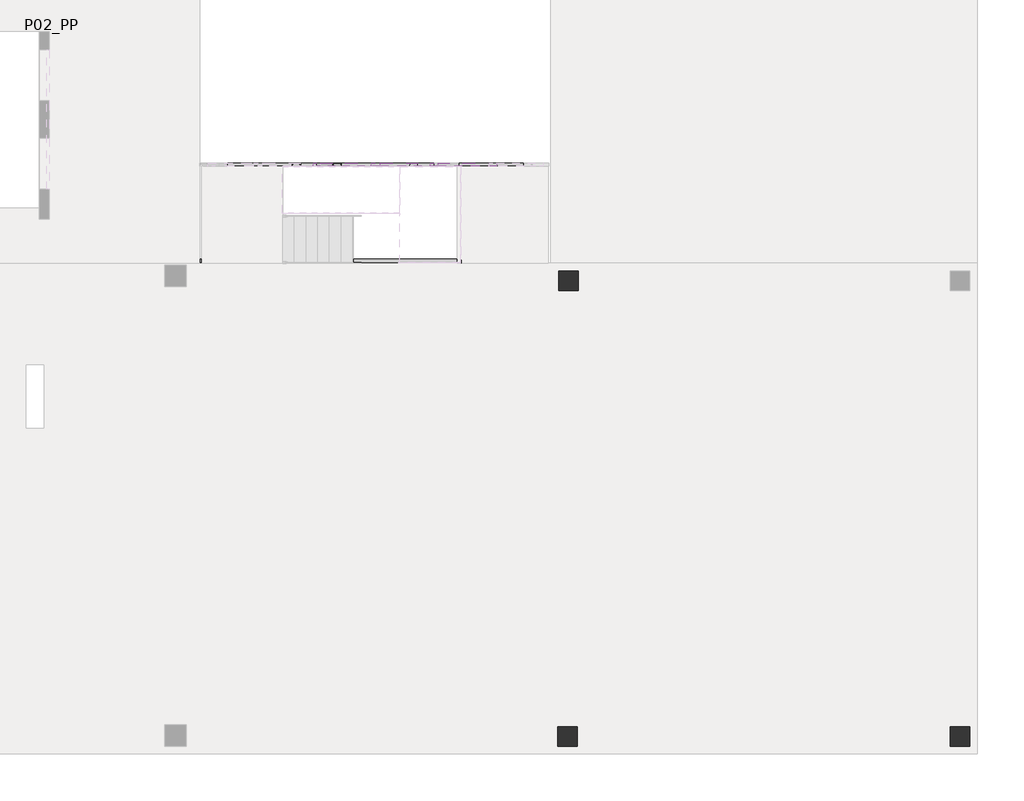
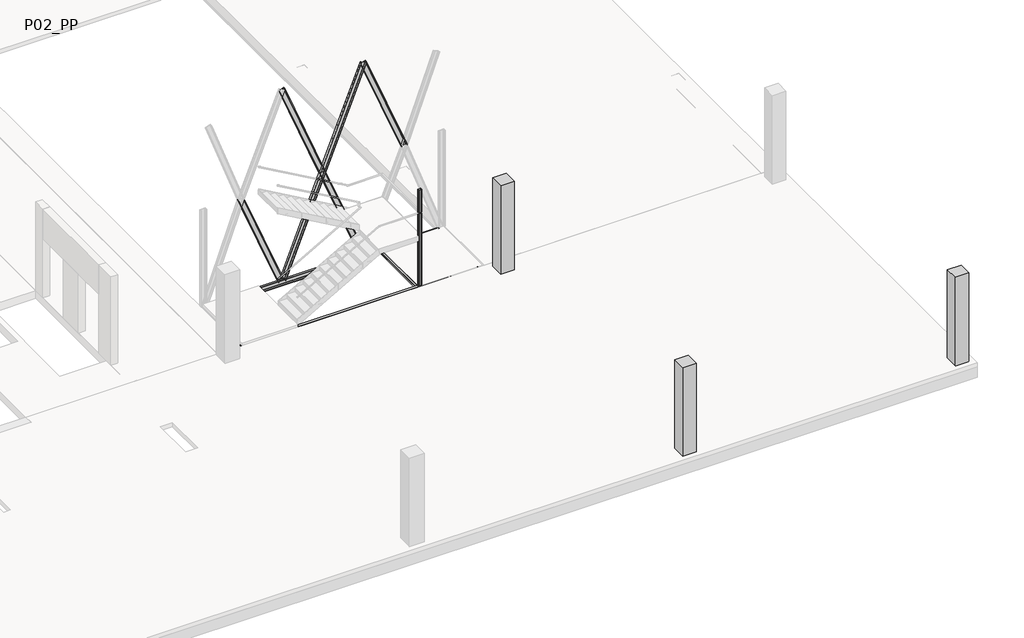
# One storey, part 3 of 7: 18 beams, 4 columns.
"""IFC4 building model written with IfcOpenShell, lengths in millimetres."""

from ifc_helpers import new_model, si_unit, frame, origin, place, context, project, spatial, polyline, circle_curve, ellipse_curve, outline, extrude, faceted_brep, transform, mapped, element, save
from ifc_brep_helpers import plane_surface, cylinder_surface, revolved_surface, advanced_brep
from components import ub_universal_beams_ipe_200x100_6cde27da, ub_universal_beams_ipe_200x100_60d02f98, upn200x75_de95b273, rhs_rectangular_hollow_section_column_100x80x5_0rhs_cb7fef1a

model = new_model("IFC4")

# Units and contexts
model_context = context("Model", 3, world=origin())
ifc_project = project(units=[si_unit("LENGTHUNIT", "METRE", prefix="MILLI")], contexts=[model_context])

# Site, building, storey
site = spatial("IfcSite", under=ifc_project)
building = spatial("IfcBuilding", under=site)
storey = spatial("IfcBuildingStorey", under=building, Name="P02_PP", Elevation=14910.0)

# Beams
placement = place(None, origin())
element("IfcBeam", 1, ObjectType="M_Concrete-Rectangular Beam : 400 x 550mm", at=placement, inside=storey, context=model_context, shape_type="SweptSolid", body=[
    extrude(outline(polyline([(850.3958139, -15610.5871866), (450.3958139, -15610.5871866), (450.3958139, -6060.5861501), (850.3958139, -6060.5861501), (850.3958139, -15610.5871866)])), frame((0.0, 0.0, 14360.0), z_axis=(0.0, 0.0, 1.0), x_axis=(1.0, 0.0, 0.0)), (0.0, 0.0, 1.0), 400.0),
])
element("IfcBeam", 2, ObjectType="M_Concrete-Rectangular Beam : 400 x 550mm", at=placement, inside=storey, context=model_context, shape_type="SweptSolid", body=[
    extrude(outline(polyline([(2517.0624776, -15610.5871866), (2117.0624776, -15610.5871866), (2117.0624776, -6060.5861501), (2517.0624776, -6060.5861501), (2517.0624776, -15610.5871866)])), frame((0.0, 0.0, 14360.0), z_axis=(0.0, 0.0, 1.0), x_axis=(1.0, 0.0, 0.0)), (0.0, 0.0, 1.0), 400.0),
])
element("IfcBeam", 3, ObjectType="M_Concrete-Rectangular Beam : 400 x 550mm", at=placement, inside=storey, context=model_context, shape_type="SweptSolid", body=[
    extrude(outline(polyline([(4183.7291418, -15610.5871866), (3783.7291418, -15610.5871866), (3783.7291418, -6060.5861501), (4183.7291418, -6060.5861501), (4183.7291418, -15610.5871866)])), frame((0.0, 0.0, 14360.0), z_axis=(0.0, 0.0, 1.0), x_axis=(1.0, 0.0, 0.0)), (0.0, 0.0, 1.0), 400.0),
])
element("IfcBeam", 4, ObjectType="M_Concrete-Rectangular Beam : 400 x 550mm", at=placement, inside=storey, context=model_context, shape_type="SweptSolid", body=[
    extrude(outline(polyline([(5850.3958055, -15610.5871866), (5450.3958055, -15610.5871866), (5450.3958055, -6060.5861501), (5850.3958055, -6060.5861501), (5850.3958055, -15610.5871866)])), frame((0.0, 0.0, 14360.0), z_axis=(0.0, 0.0, 1.0), x_axis=(1.0, 0.0, 0.0)), (0.0, 0.0, 1.0), 400.0),
])
element("IfcBeam", 5, ObjectType="M_Concrete-Rectangular Beam : 400 x 550mm", at=placement, inside=storey, context=model_context, shape_type="SweptSolid", body=[
    extrude(outline(polyline([(7517.0624701, -15610.5871866), (7117.0624701, -15610.5871866), (7117.0624701, -6060.5861501), (7517.0624701, -6060.5861501), (7517.0624701, -15610.5871866)])), frame((0.0, 0.0, 14360.0), z_axis=(0.0, 0.0, 1.0), x_axis=(1.0, 0.0, 0.0)), (0.0, 0.0, 1.0), 400.0),
])
element("IfcBeam", 6, ObjectType="M_Concrete-Rectangular Beam : 400 x 550mm", at=placement, inside=storey, context=model_context, shape_type="SweptSolid", body=[
    extrude(outline(polyline([(9183.7291339, -15610.5871866), (8783.7291339, -15610.5871866), (8783.7291339, -6060.5861501), (9183.7291339, -6060.5861501), (9183.7291339, -15610.5871866)])), frame((0.0, 0.0, 14360.0), z_axis=(0.0, 0.0, 1.0), x_axis=(1.0, 0.0, 0.0)), (0.0, 0.0, 1.0), 400.0),
])
element("IfcBeam", 7, ObjectType="M_Concrete-Rectangular Beam : 400 x 550mm", at=placement, inside=storey, context=model_context, shape_type="SweptSolid", body=[
    extrude(outline(polyline([(10850.3957976, -15610.5871866), (10450.3957976, -15610.5871866), (10450.3957976, -6060.5861501), (10850.3957976, -6060.5861501), (10850.3957976, -15610.5871866)])), frame((0.0, 0.0, 14360.0), z_axis=(0.0, 0.0, 1.0), x_axis=(1.0, 0.0, 0.0)), (0.0, 0.0, 1.0), 400.0),
])
element("IfcBeam", 8, ObjectType="M_Concrete-Rectangular Beam : 400 x 550mm", at=placement, inside=storey, context=model_context, shape_type="SweptSolid", body=[
    extrude(outline(polyline([(12517.0624618, -15610.5871866), (12117.0624618, -15610.5871866), (12117.0624618, -6060.5861501), (12517.0624618, -6060.5861501), (12517.0624618, -15610.5871866)])), frame((0.0, 0.0, 14360.0), z_axis=(0.0, 0.0, 1.0), x_axis=(1.0, 0.0, 0.0)), (0.0, 0.0, 1.0), 400.0),
])
element("IfcBeam", 9, ObjectType="M_Concrete-Rectangular Beam : 400 x 550mm", at=placement, inside=storey, context=model_context, shape_type="SweptSolid", body=[
    extrude(outline(polyline([(14183.7291255, -15610.5871866), (13783.7291255, -15610.5871866), (13783.7291255, -6060.5861501), (14183.7291255, -6060.5861501), (14183.7291255, -15610.5871866)])), frame((0.0, 0.0, 14360.0), z_axis=(0.0, 0.0, 1.0), x_axis=(1.0, 0.0, 0.0)), (0.0, 0.0, 1.0), 400.0),
])
ub_universal_beams_ipe_200x100_shape = ub_universal_beams_ipe_200x100_6cde27da(model_context)
element("IfcBeam", 10, ObjectType="UB-Universal Beams : IPE 200x100", at=placement, inside=storey, context=model_context, shape_type="MappedRepresentation", body=[
    mapped(ub_universal_beams_ipe_200x100_shape, transform((3714.2873994, -3698.1725705, 14810.0), x_axis=(0.0, 1.0, 0.0), y_axis=(-1.0, 0.0, 0.0), z_axis=(0.0, 0.0, 1.0))),
])
ub_universal_beams_ipe_200x100_2_shape = ub_universal_beams_ipe_200x100_60d02f98(model_context)
element("IfcBeam", 11, ObjectType="UB-Universal Beams : IPE 200x100", at=placement, inside=storey, context=model_context, shape_type="MappedRepresentation", body=[
    mapped(ub_universal_beams_ipe_200x100_2_shape, transform((1299.9319648, -4509.6213025, 14810.0), x_axis=(-1.0, 0.0, 0.0), y_axis=(0.0, -1.0, 0.0), z_axis=(0.0, 0.0, 1.0))),
])
element("IfcBeam", 12, ObjectType="M_MC Shapes : UPN200x75", at=placement, inside=storey, context=model_context, shape_type="AdvancedBrep", body=[
    advanced_brep(
    [(2978.7029827, -1999.8318893, 22272.8267741), (2978.7029851, -2074.8318893, 22272.8267741), (2979.6079483, -2074.8318892, 22273.1887594), (2983.2255309, -2071.5312664, 22274.6357925), (2992.5951359, -2010.9831343, 22278.3836352), (2999.8303011, -2004.3818886, 22281.2777014), (3143.2710028, -2004.3818841, 22338.6539821), (3150.5061684, -2010.9831294, 22341.5480482), (3159.8757772, -2071.5312609, 22345.295891), (3163.49336, -2074.8318835, 22346.7429241), (3164.3983232, -2074.8318835, 22347.1049094), (3164.3983209, -1999.8318835, 22347.1049094), (4679.2402749, -1999.8318363, 18560.0000243), (4463.8336827, -1999.831843, 18560.0000243), (4679.2402773, -2074.8318363, 18560.0000243), (4678.1905199, -2074.8318363, 18560.0000243), (4673.9941238, -2071.5312137, 18560.0000243), (4663.1253779, -2010.9830822, 18560.0000243), (4654.7325859, -2004.381837, 18560.0000243), (4488.3413719, -2004.3818422, 18560.0000243), (4479.9485803, -2010.9830879, 18560.0000243), (4469.0798382, -2071.5312201, 18560.0000243), (4464.8834424, -2074.8318429, 18560.0000243), (4463.833685, -2074.831843, 18560.0000243)],
    [
        (0, 1),
        (1, 2),
        (2, 3, circle_curve(frame((2979.6079482, -2070.8818892, 22273.1887594), z_axis=(-0.3713906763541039, -1.1576566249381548e-08, 0.9284766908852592), x_axis=(3.117086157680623e-08, -0.9999999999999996, 0.0)), 3.95)),
        (3, 4),
        (4, 5, circle_curve(frame((2999.8303013, -2012.2818886, 22281.2777014), z_axis=(0.3713906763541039, 1.1576566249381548e-08, -0.9284766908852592), x_axis=(3.117086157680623e-08, -0.9999999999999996, 0.0)), 7.9)),
        (5, 6),
        (6, 7, circle_curve(frame((3143.2710031, -2012.2818841, 22338.6539821), z_axis=(0.3713906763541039, 1.1576566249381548e-08, -0.9284766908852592), x_axis=(3.117086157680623e-08, -0.9999999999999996, 0.0)), 7.9)),
        (7, 8),
        (8, 9, circle_curve(frame((3163.4933598, -2070.8818835, 22346.7429241), z_axis=(-0.3713906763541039, -1.1576566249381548e-08, 0.9284766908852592), x_axis=(3.117086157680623e-08, -0.9999999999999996, 0.0)), 3.95)),
        (9, 10),
        (10, 11),
        (11, 0),
        (12, 13),
        (13, 0),
        (11, 12),
        (14, 12),
        (10, 14),
        (15, 14),
        (9, 15),
        (16, 15, ellipse_curve(frame((4678.1905197, -2070.8818363, 18560.0000243), z_axis=(-1.338109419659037e-10, 2.582863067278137e-10, 1.0), x_axis=(0.9999999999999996, 3.181657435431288e-08, 1.338109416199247e-10)), 4.2542802, 3.95)),
        (8, 16),
        (7, 17),
        (17, 16),
        (18, 17, ellipse_curve(frame((4654.7325862, -2012.281837, 18560.0000243), z_axis=(1.338109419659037e-10, -2.582863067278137e-10, -1.0), x_axis=(-0.9999999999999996, -3.181657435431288e-08, -1.338109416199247e-10)), 8.5085604, 7.9)),
        (6, 18),
        (19, 18),
        (5, 19),
        (20, 19, ellipse_curve(frame((4488.3413722, -2012.2818422, 18560.0000243), z_axis=(1.338109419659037e-10, -2.582863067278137e-10, -1.0), x_axis=(-0.9999999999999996, -3.181657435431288e-08, -1.338109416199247e-10)), 8.5085604, 7.9)),
        (4, 20),
        (3, 21),
        (21, 20),
        (22, 21, ellipse_curve(frame((4464.8834423, -2070.8818429, 18560.0000243), z_axis=(-1.338109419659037e-10, 2.582863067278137e-10, 1.0), x_axis=(0.9999999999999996, 3.181657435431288e-08, 1.338109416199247e-10)), 4.2542802, 3.95)),
        (2, 22),
        (23, 22),
        (1, 23),
        (13, 23),
    ],
    [
        plane_surface(frame((3071.5506521, -2010.7318864, 22309.9658417), z_axis=(-0.371390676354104, -1.157656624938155e-08, 0.9284766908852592), x_axis=(-0.9284766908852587, -2.894141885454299e-08, -0.37139067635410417))),
        plane_surface(frame((4463.8200193, -1999.831843, 18560.0341826), z_axis=(-3.117086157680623e-08, 0.9999999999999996, 0.0), x_axis=(-0.3713906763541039, -1.1576566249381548e-08, 0.9284766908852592))),
        plane_surface(frame((4649.5153575, -1999.8318372, 18634.3123179), z_axis=(0.9284766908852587, 2.894141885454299e-08, 0.3713906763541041), x_axis=(-0.3713906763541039, -1.1576566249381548e-08, 0.9284766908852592))),
        plane_surface(frame((4649.5153598, -2074.8318372, 18634.3123179), z_axis=(3.117086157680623e-08, -0.9999999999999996, 0.0), x_axis=(-0.3713906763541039, -1.1576566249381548e-08, 0.9284766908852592))),
        cylinder_surface(frame((4648.6103964, -2070.8818372, 18633.9503325), z_axis=(0.3713906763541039, 1.1576566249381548e-08, -0.9284766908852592), x_axis=(3.117086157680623e-08, -0.9999999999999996, 0.0)), 3.95),
        plane_surface(frame((4642.1803933, -2053.3568374, 18631.3783315), z_axis=(-0.9158437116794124, -0.1643993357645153, -0.36633748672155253), x_axis=(-0.3713906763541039, -1.1576566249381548e-08, 0.9284766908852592))),
        revolved_surface(polyline([(3143.2710033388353, -2020.1818840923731, 22338.653982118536), (4655.90618100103, -2020.181836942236, 18557.06603796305)]), (4628.3880397, -2012.2818378, 18625.8613906), (-0.3713906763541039, -1.1576566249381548e-08, 0.9284766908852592)),
        plane_surface(frame((4628.3880394, -2004.3818378, 18625.8613906), z_axis=(3.117086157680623e-08, -0.9999999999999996, 0.0), x_axis=(-0.3713906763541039, -1.1576566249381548e-08, 0.9284766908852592))),
        revolved_surface(polyline([(2999.8303015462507, -2020.1818885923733, 22281.2777014), (4489.514966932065, -2020.1818421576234, 18557.066037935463)]), (4484.9473379, -2012.2818423, 18568.4851099), (-0.3713906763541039, -1.1576566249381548e-08, 0.9284766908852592)),
        plane_surface(frame((4471.1549869, -2053.3568427, 18562.9681689), z_axis=(0.9158437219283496, -0.1643992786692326, 0.36633748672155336), x_axis=(-0.3713906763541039, -1.1576566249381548e-08, 0.9284766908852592))),
        cylinder_surface(frame((4464.7249848, -2070.8818429, 18560.3961679), z_axis=(0.3713906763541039, 1.1576566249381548e-08, -0.9284766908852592), x_axis=(3.117086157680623e-08, -0.9999999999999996, 0.0)), 3.95),
        plane_surface(frame((4464.7249849, -2074.8318429, 18560.3961679), z_axis=(3.117086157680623e-08, -0.9999999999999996, 0.0), x_axis=(-0.3713906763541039, -1.1576566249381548e-08, 0.9284766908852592))),
        plane_surface(frame((4463.8200217, -2074.831843, 18560.0341826), z_axis=(-0.9284766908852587, -2.894141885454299e-08, -0.3713906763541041), x_axis=(-0.3713906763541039, -1.1576566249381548e-08, 0.9284766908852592))),
        plane_surface(frame((4463.833683, -2010.731843, 18560.0000243), z_axis=(1.338109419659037e-10, -2.582863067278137e-10, -1.0), x_axis=(1.0, 0.0, 1.338109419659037e-10))),
    ],
    [
        (0, [[1, 2, 3, 4, 5, 6, 7, 8, 9, 10, 11, 12]]),
        (1, [[13, 14, -12, 15]]),
        (2, [[16, -15, -11, 17]]),
        (3, [[18, -17, -10, 19]]),
        (4, [[20, -19, -9, 21]]),
        (5, [[-21, -8, 22, 23]]),
        (6, [[24, -22, -7, 25]]),
        (7, [[26, -25, -6, 27]]),
        (8, [[28, -27, -5, 29]]),
        (9, [[-29, -4, 30, 31]]),
        (10, [[32, -30, -3, 33]]),
        (11, [[34, -33, -2, 35]]),
        (12, [[36, -35, -1, -14]]),
        (13, [[-13, -16, -18, -20, -23, -24, -26, -28, -31, -32, -34, -36]]),
    ],
),
])
element("IfcBeam", 13, ObjectType="M_MC Shapes : UPN200x75", at=placement, inside=storey, context=model_context, shape_type="AdvancedBrep", body=[
    advanced_brep(
    [(3164.3709292, -1999.831887, 22272.8267723), (2978.675591, -1999.8318812, 22347.1049075), (2978.6755886, -2074.8318812, 22347.1049075), (2979.5805519, -2074.8318812, 22346.7429222), (2983.1981347, -2071.5312586, 22345.2958892), (2992.5677435, -2010.9831271, 22341.5480464), (2999.8029091, -2004.3818818, 22338.6539803), (3143.2436108, -2004.3818863, 22281.2776996), (3150.478776, -2010.983132, 22278.3836335), (3159.848381, -2071.5312641, 22274.6357907), (3163.4659636, -2074.8318869, 22273.1887576), (3164.3709268, -2074.831887, 22272.8267723), (1463.8336374, -1999.831834, 18560.0000202), (1679.2402297, -1999.8318407, 18560.0000202), (1463.8336351, -2074.831834, 18560.0000202), (1464.8833925, -2074.831834, 18560.0000202), (1469.0797885, -2071.5312114, 18560.0000202), (1479.9485344, -2010.9830799, 18560.0000202), (1488.3413264, -2004.3818347, 18560.0000202), (1654.7325404, -2004.3818399, 18560.0000202), (1663.125332, -2010.9830856, 18560.0000202), (1673.9940742, -2071.5312178, 18560.0000202), (1678.19047, -2074.8318406, 18560.0000202), (1679.2402274, -2074.8318407, 18560.0000202)],
    [
        (0, 1),
        (1, 2),
        (2, 3),
        (3, 4, circle_curve(frame((2979.580552, -2070.8818812, 22346.7429222), z_axis=(0.37139067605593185, -1.1576567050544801e-08, 0.9284766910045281), x_axis=(-3.117085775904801e-08, -0.9999999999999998, 0.0)), 3.95)),
        (4, 5),
        (5, 6, circle_curve(frame((2999.8029088, -2012.2818818, 22338.6539803), z_axis=(-0.37139067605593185, 1.1576567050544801e-08, -0.9284766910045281), x_axis=(-3.117085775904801e-08, -0.9999999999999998, 0.0)), 7.9)),
        (6, 7),
        (7, 8, circle_curve(frame((3143.2436106, -2012.2818863, 22281.2776996), z_axis=(-0.37139067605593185, 1.1576567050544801e-08, -0.9284766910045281), x_axis=(-3.117085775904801e-08, -0.9999999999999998, 0.0)), 7.9)),
        (8, 9),
        (9, 10, circle_curve(frame((3163.4659637, -2070.8818869, 22273.1887576), z_axis=(0.37139067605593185, -1.1576567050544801e-08, 0.9284766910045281), x_axis=(-3.117085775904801e-08, -0.9999999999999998, 0.0)), 3.95)),
        (10, 11),
        (11, 0),
        (12, 1),
        (0, 13),
        (13, 12),
        (14, 2),
        (12, 14),
        (15, 3),
        (14, 15),
        (16, 4),
        (15, 16, ellipse_curve(frame((1464.8833926, -2070.881834, 18560.0000202), z_axis=(-1.6592393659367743e-10, 3.9155476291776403e-10, 1.0), x_axis=(-0.9999999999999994, 3.214974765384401e-08, -1.6592391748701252e-10)), 4.2542802, 3.95)),
        (16, 17),
        (17, 5),
        (18, 6),
        (17, 18, ellipse_curve(frame((1488.3413262, -2012.2818347, 18560.0000202), z_axis=(1.6592393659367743e-10, -3.9155476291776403e-10, -1.0), x_axis=(0.9999999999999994, -3.214974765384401e-08, 1.6592391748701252e-10)), 8.5085604, 7.9)),
        (19, 7),
        (18, 19),
        (20, 8),
        (19, 20, ellipse_curve(frame((1654.7325402, -2012.2818399, 18560.0000202), z_axis=(1.6592393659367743e-10, -3.9155476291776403e-10, -1.0), x_axis=(0.9999999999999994, -3.214974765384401e-08, 1.6592391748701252e-10)), 8.5085604, 7.9)),
        (20, 21),
        (21, 9),
        (22, 10),
        (21, 22, ellipse_curve(frame((1678.1904701, -2070.8818406, 18560.0000202), z_axis=(-1.6592393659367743e-10, 3.9155476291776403e-10, 1.0), x_axis=(-0.9999999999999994, 3.214974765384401e-08, -1.6592391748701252e-10)), 4.2542802, 3.95)),
        (23, 11),
        (22, 23),
        (23, 13),
    ],
    [
        plane_surface(frame((3071.5232597, -2010.7318841, 22309.9658399), z_axis=(0.371390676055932, -1.1576567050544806e-08, 0.928476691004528), x_axis=(0.9284766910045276, -2.8941414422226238e-08, -0.3713906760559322))),
        plane_surface(frame((1679.2538938, -1999.8318407, 18560.0341803), z_axis=(3.117085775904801e-08, 0.9999999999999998, 0.0), x_axis=(0.37139067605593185, -1.1576567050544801e-08, 0.9284766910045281))),
        plane_surface(frame((1493.5585556, -1999.8318349, 18634.3123155), z_axis=(-0.9284766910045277, 2.894141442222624e-08, 0.37139067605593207), x_axis=(0.37139067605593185, -1.1576567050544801e-08, 0.9284766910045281))),
        plane_surface(frame((1493.5585532, -2074.8318349, 18634.3123155), z_axis=(-3.117085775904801e-08, -0.9999999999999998, 0.0), x_axis=(0.37139067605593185, -1.1576567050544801e-08, 0.9284766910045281))),
        cylinder_surface(frame((1494.4635166, -2070.8818349, 18633.9503302), z_axis=(-0.37139067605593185, 1.1576567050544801e-08, -0.9284766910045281), x_axis=(-3.117085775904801e-08, -0.9999999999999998, 0.0)), 3.95),
        plane_surface(frame((1500.8935198, -2053.3568351, 18631.3783292), z_axis=(0.915843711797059, -0.1643993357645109, -0.36633748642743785), x_axis=(0.37139067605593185, -1.1576567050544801e-08, 0.9284766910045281))),
        revolved_surface(polyline([(2999.8029085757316, -2020.1818817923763, 22338.65398031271), (1487.1677314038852, -2020.1818346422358, 18557.06603386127)]), (1514.6858734, -2012.2818355, 18625.8613883), (0.37139067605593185, -1.1576567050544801e-08, 0.9284766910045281)),
        plane_surface(frame((1514.6858737, -2004.3818355, 18625.8613883), z_axis=(-3.117085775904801e-08, -0.9999999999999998, 0.0), x_axis=(0.37139067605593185, -1.1576567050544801e-08, 0.9284766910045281))),
        revolved_surface(polyline([(3143.243610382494, -2020.1818862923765, 22281.277699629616), (1653.5589454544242, -2020.1818398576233, 18557.066033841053)]), (1658.1265752, -2012.28184, 18568.4851076), (0.37139067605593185, -1.1576567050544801e-08, 0.9284766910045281)),
        plane_surface(frame((1671.9189262, -2053.3568404, 18562.9681667), z_axis=(-0.9158437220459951, -0.16439927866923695, 0.36633748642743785), x_axis=(0.37139067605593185, -1.1576567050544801e-08, 0.9284766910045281))),
        cylinder_surface(frame((1678.3489283, -2070.8818406, 18560.3961656), z_axis=(-0.37139067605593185, 1.1576567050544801e-08, -0.9284766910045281), x_axis=(-3.117085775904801e-08, -0.9999999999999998, 0.0)), 3.95),
        plane_surface(frame((1678.3489282, -2074.8318406, 18560.3961656), z_axis=(-3.117085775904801e-08, -0.9999999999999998, 0.0), x_axis=(0.37139067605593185, -1.1576567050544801e-08, 0.9284766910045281))),
        plane_surface(frame((1679.2538914, -2074.8318407, 18560.0341803), z_axis=(0.9284766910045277, -2.894141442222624e-08, -0.37139067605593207), x_axis=(0.37139067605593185, -1.1576567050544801e-08, 0.9284766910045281))),
        plane_surface(frame((1679.2402294, -2010.7318407, 18560.0000202), z_axis=(1.6592393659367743e-10, -3.9155476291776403e-10, -1.0), x_axis=(1.0, 0.0, 1.6592393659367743e-10))),
    ],
    [
        (0, [[1, 2, 3, 4, 5, 6, 7, 8, 9, 10, 11, 12]]),
        (1, [[13, -1, 14, 15]]),
        (2, [[16, -2, -13, 17]]),
        (3, [[18, -3, -16, 19]]),
        (4, [[20, -4, -18, 21]]),
        (5, [[22, 23, -5, -20]]),
        (6, [[24, -6, -23, 25]]),
        (7, [[26, -7, -24, 27]]),
        (8, [[28, -8, -26, 29]]),
        (9, [[30, 31, -9, -28]]),
        (10, [[32, -10, -31, 33]]),
        (11, [[34, -11, -32, 35]]),
        (12, [[-14, -12, -34, 36]]),
        (13, [[-36, -35, -33, -30, -29, -27, -25, -22, -21, -19, -17, -15]]),
    ],
),
])
element("IfcBeam", 14, ObjectType="M_MC Shapes : UPN200x75", at=placement, inside=storey, context=model_context, shape_type="AdvancedBrep", body=[
    advanced_brep(
    [(-21.2970181, -1999.8318888, 22272.8267746), (-21.2970158, -2074.8318888, 22272.8267746), (-20.3920525, -2074.8318888, 22273.1887599), (-16.7744699, -2071.5312659, 22274.635793), (-7.4048649, -2010.9831338, 22278.3836358), (-0.1696998, -2004.3818881, 22281.2777019), (143.2710019, -2004.3818837, 22338.6539827), (150.5061675, -2010.9831289, 22341.5480488), (159.8757763, -2071.5312604, 22345.2958916), (163.4933591, -2074.831883, 22346.7429247), (164.3983223, -2074.831883, 22347.10491), (164.39832, -1999.831883, 22347.10491), (1679.2402756, -1999.8318358, 18560.0000261), (1463.8336833, -1999.8318425, 18560.0000261), (1679.240278, -2074.8318358, 18560.0000261), (1678.1905206, -2074.8318358, 18560.0000261), (1673.9941245, -2071.5312132, 18560.0000261), (1663.1253786, -2010.9830818, 18560.0000261), (1654.7325866, -2004.3818366, 18560.0000261), (1488.3413726, -2004.3818418, 18560.0000261), (1479.948581, -2010.9830875, 18560.0000261), (1469.0798389, -2071.5312196, 18560.0000261), (1464.883443, -2074.8318425, 18560.0000261), (1463.8336856, -2074.8318425, 18560.0000261)],
    [
        (0, 1),
        (1, 2),
        (2, 3, circle_curve(frame((-20.3920526, -2070.8818888, 22273.1887599), z_axis=(-0.3713906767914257, -1.1573273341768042e-08, 0.9284766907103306), x_axis=(3.116199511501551e-08, -0.9999999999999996, 0.0)), 3.95)),
        (3, 4),
        (4, 5, circle_curve(frame((-0.1696995, -2012.2818881, 22281.2777019), z_axis=(0.3713906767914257, 1.1573273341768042e-08, -0.9284766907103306), x_axis=(3.116199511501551e-08, -0.9999999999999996, 0.0)), 7.9)),
        (5, 6),
        (6, 7, circle_curve(frame((143.2710022, -2012.2818837, 22338.6539827), z_axis=(0.3713906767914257, 1.1573273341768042e-08, -0.9284766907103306), x_axis=(3.116199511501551e-08, -0.9999999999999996, 0.0)), 7.9)),
        (7, 8),
        (8, 9, circle_curve(frame((163.4933589, -2070.881883, 22346.7429247), z_axis=(-0.3713906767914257, -1.1573273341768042e-08, 0.9284766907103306), x_axis=(3.116199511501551e-08, -0.9999999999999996, 0.0)), 3.95)),
        (9, 10),
        (10, 11),
        (11, 0),
        (12, 13),
        (13, 0),
        (11, 12),
        (14, 12),
        (10, 14),
        (15, 14),
        (9, 15),
        (16, 15, ellipse_curve(frame((1678.1905204, -2070.8818358, 18560.0000261), z_axis=(-2.569041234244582e-10, 0.0, 1.0), x_axis=(0.9999999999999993, 3.116199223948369e-08, 2.569041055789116e-10)), 4.2542802, 3.95)),
        (8, 16),
        (7, 17),
        (17, 16),
        (18, 17, ellipse_curve(frame((1654.7325868, -2012.2818366, 18560.0000261), z_axis=(2.569041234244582e-10, 0.0, -1.0), x_axis=(-0.9999999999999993, -3.116199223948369e-08, -2.569041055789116e-10)), 8.5085604, 7.9)),
        (6, 18),
        (19, 18),
        (5, 19),
        (20, 19, ellipse_curve(frame((1488.3413728, -2012.2818418, 18560.0000261), z_axis=(2.569041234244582e-10, 0.0, -1.0), x_axis=(-0.9999999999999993, -3.116199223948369e-08, -2.569041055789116e-10)), 8.5085604, 7.9)),
        (4, 20),
        (3, 21),
        (21, 20),
        (22, 21, ellipse_curve(frame((1464.8834429, -2070.8818425, 18560.0000261), z_axis=(-2.569041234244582e-10, 0.0, 1.0), x_axis=(0.9999999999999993, 3.116199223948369e-08, 2.569041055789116e-10)), 4.2542802, 3.95)),
        (2, 22),
        (23, 22),
        (1, 23),
        (13, 23),
    ],
    [
        plane_surface(frame((71.5506513, -2010.7318859, 22309.9658423), z_axis=(-0.3713906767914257, -1.1573273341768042e-08, 0.9284766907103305), x_axis=(-0.92847669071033, -2.893318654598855e-08, -0.37139067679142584))),
        plane_surface(frame((1463.8200202, -1999.8318425, 18560.0341838), z_axis=(-3.116199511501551e-08, 0.9999999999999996, 0.0), x_axis=(-0.3713906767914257, -1.1573273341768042e-08, 0.9284766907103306))),
        plane_surface(frame((1649.5153584, -1999.8318367, 18634.3123191), z_axis=(0.9284766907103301, 2.8933186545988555e-08, 0.37139067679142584), x_axis=(-0.3713906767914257, -1.1573273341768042e-08, 0.9284766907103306))),
        plane_surface(frame((1649.5153607, -2074.8318367, 18634.3123191), z_axis=(3.116199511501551e-08, -0.9999999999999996, 0.0), x_axis=(-0.3713906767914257, -1.1573273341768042e-08, 0.9284766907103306))),
        cylinder_surface(frame((1648.6103973, -2070.8818368, 18633.9503338), z_axis=(0.3713906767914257, 1.1573273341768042e-08, -0.9284766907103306), x_axis=(3.116199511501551e-08, -0.9999999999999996, 0.0)), 3.95),
        plane_surface(frame((1642.1803942, -2053.356837, 18631.3783328), z_axis=(-0.9158437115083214, -0.16439933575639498, -0.3663374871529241), x_axis=(-0.3713906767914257, -1.1573273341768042e-08, 0.9284766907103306))),
        revolved_surface(polyline([(143.27100236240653, -2020.1818836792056, 22338.65398268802), (1655.9061815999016, -2020.1818365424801, 18557.066039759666)]), (1628.3880405, -2012.2818374, 18625.8613918), (-0.3713906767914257, -1.1573273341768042e-08, 0.9284766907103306)),
        plane_surface(frame((1628.3880403, -2004.3818374, 18625.8613918), z_axis=(3.116199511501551e-08, -0.9999999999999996, 0.0), x_axis=(-0.3713906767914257, -1.1573273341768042e-08, 0.9284766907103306))),
        revolved_surface(polyline([(-0.1696993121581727, -2020.1818881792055, 22281.27770192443), (1489.5149675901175, -2020.1818417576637, 18557.06603975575)]), (1484.9473388, -2012.2818419, 18568.4851111), (-0.3713906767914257, -1.1573273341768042e-08, 0.9284766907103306)),
        plane_surface(frame((1471.1549877, -2053.3568423, 18562.9681701), z_axis=(0.9158437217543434, -0.16439927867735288, 0.36633748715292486), x_axis=(-0.3713906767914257, -1.1573273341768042e-08, 0.9284766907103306))),
        cylinder_surface(frame((1464.7249857, -2070.8818425, 18560.3961691), z_axis=(0.3713906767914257, 1.1573273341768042e-08, -0.9284766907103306), x_axis=(3.116199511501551e-08, -0.9999999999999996, 0.0)), 3.95),
        plane_surface(frame((1464.7249858, -2074.8318425, 18560.3961691), z_axis=(3.116199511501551e-08, -0.9999999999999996, 0.0), x_axis=(-0.3713906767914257, -1.1573273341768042e-08, 0.9284766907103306))),
        plane_surface(frame((1463.8200226, -2074.8318425, 18560.0341838), z_axis=(-0.9284766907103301, -2.8933186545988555e-08, -0.37139067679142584), x_axis=(-0.3713906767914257, -1.1573273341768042e-08, 0.9284766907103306))),
        plane_surface(frame((1463.8336836, -2010.7318425, 18560.0000261), z_axis=(2.569041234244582e-10, 0.0, -1.0), x_axis=(1.0, 0.0, 2.569041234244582e-10))),
    ],
    [
        (0, [[1, 2, 3, 4, 5, 6, 7, 8, 9, 10, 11, 12]]),
        (1, [[13, 14, -12, 15]]),
        (2, [[16, -15, -11, 17]]),
        (3, [[18, -17, -10, 19]]),
        (4, [[20, -19, -9, 21]]),
        (5, [[-21, -8, 22, 23]]),
        (6, [[24, -22, -7, 25]]),
        (7, [[26, -25, -6, 27]]),
        (8, [[28, -27, -5, 29]]),
        (9, [[-29, -4, 30, 31]]),
        (10, [[32, -30, -3, 33]]),
        (11, [[34, -33, -2, 35]]),
        (12, [[36, -35, -1, -14]]),
        (13, [[-13, -16, -18, -20, -23, -24, -26, -28, -31, -32, -34, -36]]),
    ],
),
])
element("IfcBeam", 15, ObjectType="M_MC Shapes : UPN200x75", at=placement, inside=storey, context=model_context, shape_type="AdvancedBrep", body=[
    advanced_brep(
    [(3164.3709386, -1999.8318896, 14847.1732482), (3164.3709362, -2074.8318896, 14847.1732482), (3163.4659729, -2074.8318896, 14846.8112629), (3159.8483903, -2071.5312668, 14845.3642298), (3150.4787854, -2010.9831346, 14841.6163871), (3143.2436203, -2004.3818889, 14838.7223209), (2999.8029185, -2004.3818842, 14781.3460402), (2992.567753, -2010.9831294, 14778.4519741), (2983.198144, -2071.5312609, 14774.7041313), (2979.5805613, -2074.8318835, 14773.2570982), (2978.675598, -2074.8318835, 14772.8951129), (2978.6756005, -1999.8318835, 14772.8951129), (1463.8336375, -1999.8318333, 18560.0000202), (1679.2402298, -1999.8318404, 18560.0000202), (1463.833635, -2074.8318333, 18560.0000202), (1464.8833924, -2074.8318333, 18560.0000202), (1469.0797885, -2071.5312107, 18560.0000202), (1479.9485345, -2010.9830793, 18560.0000202), (1488.3413265, -2004.3818341, 18560.0000202), (1654.7325405, -2004.3818396, 18560.0000202), (1663.1253321, -2010.9830854, 18560.0000202), (1673.9940741, -2071.5312175, 18560.0000202), (1678.1904699, -2074.8318404, 18560.0000202), (1679.2402273, -2074.8318404, 18560.0000202)],
    [
        (0, 1),
        (1, 2),
        (2, 3, circle_curve(frame((3163.465973, -2070.8818896, 14846.8112629), z_axis=(0.37139067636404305, -1.2303665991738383e-08, -0.9284766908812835), x_axis=(-3.312863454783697e-08, -0.9999999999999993, 0.0)), 3.95)),
        (3, 4),
        (4, 5, circle_curve(frame((3143.24362, -2012.2818889, 14838.7223209), z_axis=(-0.37139067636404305, 1.2303665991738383e-08, 0.9284766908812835), x_axis=(-3.312863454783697e-08, -0.9999999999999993, 0.0)), 7.9)),
        (5, 6),
        (6, 7, circle_curve(frame((2999.8029183, -2012.2818842, 14781.3460402), z_axis=(-0.37139067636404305, 1.2303665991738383e-08, 0.9284766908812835), x_axis=(-3.312863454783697e-08, -0.9999999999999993, 0.0)), 7.9)),
        (7, 8),
        (8, 9, circle_curve(frame((2979.5805614, -2070.8818835, 14773.2570982), z_axis=(0.37139067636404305, -1.2303665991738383e-08, -0.9284766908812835), x_axis=(-3.312863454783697e-08, -0.9999999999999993, 0.0)), 3.95)),
        (9, 10),
        (10, 11),
        (11, 0),
        (12, 13),
        (13, 0),
        (11, 12),
        (14, 12),
        (10, 14),
        (15, 14),
        (9, 15),
        (16, 15, ellipse_curve(frame((1464.8833926, -2070.8818333, 18560.0000202), z_axis=(1.6592393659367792e-10, -3.9155476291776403e-10, -1.0), x_axis=(-0.9999999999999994, 3.214974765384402e-08, -1.6592391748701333e-10)), 4.2542802, 3.95)),
        (8, 16),
        (7, 17),
        (17, 16),
        (18, 17, ellipse_curve(frame((1488.3413263, -2012.2818341, 18560.0000202), z_axis=(-1.6592393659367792e-10, 3.9155476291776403e-10, 1.0), x_axis=(0.9999999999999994, -3.214974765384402e-08, 1.6592391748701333e-10)), 8.5085604, 7.9)),
        (6, 18),
        (19, 18),
        (5, 19),
        (20, 19, ellipse_curve(frame((1654.7325402, -2012.2818396, 18560.0000202), z_axis=(-1.6592393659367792e-10, 3.9155476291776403e-10, 1.0), x_axis=(0.9999999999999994, -3.214974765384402e-08, 1.6592391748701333e-10)), 8.5085604, 7.9)),
        (4, 20),
        (3, 21),
        (21, 20),
        (22, 21, ellipse_curve(frame((1678.19047, -2070.8818404, 18560.0000202), z_axis=(1.6592393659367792e-10, -3.9155476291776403e-10, -1.0), x_axis=(-0.9999999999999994, 3.214974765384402e-08, -1.6592391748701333e-10)), 4.2542802, 3.95)),
        (2, 22),
        (23, 22),
        (1, 23),
        (13, 23),
    ],
    [
        plane_surface(frame((3071.5232692, -2010.7318866, 14810.0341806), z_axis=(0.3713906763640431, -1.2303665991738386e-08, -0.9284766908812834), x_axis=(0.9284766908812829, -3.075916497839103e-08, 0.3713906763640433))),
        plane_surface(frame((1679.253902, -1999.8318404, 18559.9658397), z_axis=(3.312863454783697e-08, 0.9999999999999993, 0.0), x_axis=(0.37139067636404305, -1.2303665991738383e-08, -0.9284766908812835))),
        plane_surface(frame((1493.5585638, -1999.8318343, 18485.6877044), z_axis=(-0.9284766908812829, 3.075916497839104e-08, -0.3713906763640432), x_axis=(0.37139067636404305, -1.2303665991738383e-08, -0.9284766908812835))),
        plane_surface(frame((1493.5585613, -2074.8318343, 18485.6877044), z_axis=(-3.312863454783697e-08, -0.9999999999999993, 0.0), x_axis=(0.37139067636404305, -1.2303665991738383e-08, -0.9284766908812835))),
        cylinder_surface(frame((1494.4635247, -2070.8818343, 18486.0496897), z_axis=(-0.37139067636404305, 1.2303665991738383e-08, 0.9284766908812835), x_axis=(-3.312863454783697e-08, -0.9999999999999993, 0.0)), 3.95),
        plane_surface(frame((1500.8935279, -2053.3568345, 18488.6216908), z_axis=(0.9158437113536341, -0.1643993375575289, 0.36633748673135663), x_axis=(0.37139067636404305, -1.2303665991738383e-08, -0.9284766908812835))),
        revolved_surface(polyline([(2999.802917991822, -2020.1818841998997, 14781.346040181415), (1487.1677314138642, -2020.1818340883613, 18562.934006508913)]), (1514.6858816, -2012.281835, 18494.1386317), (0.37139067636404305, -1.2303665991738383e-08, -0.9284766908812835)),
        plane_surface(frame((1514.6858819, -2004.381835, 18494.1386317), z_axis=(-3.312863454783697e-08, -0.9999999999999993, 0.0), x_axis=(0.37139067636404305, -1.2303665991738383e-08, -0.9284766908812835))),
        revolved_surface(polyline([(3143.2436197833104, -2020.1818888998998, 14838.722320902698), (1653.5589454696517, -2020.1818395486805, 18562.934006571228)]), (1658.1265834, -2012.2818397, 18551.5149124), (0.37139067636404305, -1.2303665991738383e-08, -0.9284766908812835)),
        plane_surface(frame((1671.9189344, -2053.3568402, 18557.0318534), z_axis=(-0.9158437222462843, -0.1643992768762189, -0.3663374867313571), x_axis=(0.37139067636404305, -1.2303665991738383e-08, -0.9284766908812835))),
        cylinder_surface(frame((1678.3489364, -2070.8818404, 18559.6038544), z_axis=(-0.37139067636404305, 1.2303665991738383e-08, 0.9284766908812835), x_axis=(-3.312863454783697e-08, -0.9999999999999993, 0.0)), 3.95),
        plane_surface(frame((1678.3489362, -2074.8318404, 18559.6038544), z_axis=(-3.312863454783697e-08, -0.9999999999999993, 0.0), x_axis=(0.37139067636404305, -1.2303665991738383e-08, -0.9284766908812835))),
        plane_surface(frame((1679.2538995, -2074.8318404, 18559.9658397), z_axis=(0.9284766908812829, -3.075916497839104e-08, 0.3713906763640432), x_axis=(0.37139067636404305, -1.2303665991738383e-08, -0.9284766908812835))),
        plane_surface(frame((1463.8336372, -2010.7318335, 18560.0000202), z_axis=(-1.6592393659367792e-10, 3.9155476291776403e-10, 1.0), x_axis=(-1.0, 0.0, -1.6592393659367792e-10))),
    ],
    [
        (0, [[1, 2, 3, 4, 5, 6, 7, 8, 9, 10, 11, 12]]),
        (1, [[13, 14, -12, 15]]),
        (2, [[16, -15, -11, 17]]),
        (3, [[18, -17, -10, 19]]),
        (4, [[20, -19, -9, 21]]),
        (5, [[-21, -8, 22, 23]]),
        (6, [[24, -22, -7, 25]]),
        (7, [[26, -25, -6, 27]]),
        (8, [[28, -27, -5, 29]]),
        (9, [[-29, -4, 30, 31]]),
        (10, [[32, -30, -3, 33]]),
        (11, [[34, -33, -2, 35]]),
        (12, [[36, -35, -1, -14]]),
        (13, [[-13, -16, -18, -20, -23, -24, -26, -28, -31, -32, -34, -36]]),
    ],
),
])
element("IfcBeam", 16, ObjectType="M_MC Shapes : UPN200x75", at=placement, inside=storey, context=model_context, shape_type="AdvancedBrep", body=[
    advanced_brep(
    [(14.7768171, -1999.8318877, 14937.35786), (200.4721552, -1999.8318819, 14863.0797247), (200.4721576, -2074.8318819, 14863.0797247), (199.5671943, -2074.8318819, 14863.44171), (195.9496115, -2071.5312593, 14864.8887431), (186.5800027, -2010.9831278, 14868.6365859), (179.3448371, -2004.3818825, 14871.530652), (35.9041354, -2004.381887, 14928.9069327), (28.6689703, -2010.9831327, 14931.8009988), (19.2993652, -2071.5312648, 14935.5488416), (15.6817827, -2074.8318876, 14936.9958747), (14.7768194, -2074.8318877, 14937.35786), (1679.2402756, -1999.8318358, 18560.0000261), (1463.8336833, -1999.8318425, 18560.0000261), (1679.240278, -2074.8318358, 18560.0000261), (1678.1905206, -2074.8318358, 18560.0000261), (1673.9941245, -2071.5312132, 18560.0000261), (1663.1253786, -2010.9830818, 18560.0000261), (1654.7325866, -2004.3818366, 18560.0000261), (1488.3413726, -2004.3818418, 18560.0000261), (1479.948581, -2010.9830875, 18560.0000261), (1469.0798389, -2071.5312196, 18560.0000261), (1464.883443, -2074.8318425, 18560.0000261), (1463.8336856, -2074.8318425, 18560.0000261)],
    [
        (0, 1),
        (1, 2),
        (2, 3),
        (3, 4, circle_curve(frame((199.5671942, -2070.8818819, 14863.44171), z_axis=(-0.37139067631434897, -1.157327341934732e-08, -0.9284766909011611), x_axis=(3.116199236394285e-08, -0.9999999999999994, 0.0)), 3.95)),
        (4, 5),
        (5, 6, circle_curve(frame((179.3448374, -2012.2818825, 14871.530652), z_axis=(0.37139067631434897, 1.157327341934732e-08, 0.9284766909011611), x_axis=(3.116199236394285e-08, -0.9999999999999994, 0.0)), 7.9)),
        (6, 7),
        (7, 8, circle_curve(frame((35.9041357, -2012.281887, 14928.9069327), z_axis=(0.37139067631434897, 1.157327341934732e-08, 0.9284766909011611), x_axis=(3.116199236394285e-08, -0.9999999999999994, 0.0)), 7.9)),
        (8, 9),
        (9, 10, circle_curve(frame((15.6817825, -2070.8818876, 14936.9958747), z_axis=(-0.37139067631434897, -1.157327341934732e-08, -0.9284766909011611), x_axis=(3.116199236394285e-08, -0.9999999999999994, 0.0)), 3.95)),
        (10, 11),
        (11, 0),
        (12, 1),
        (0, 13),
        (13, 12),
        (14, 2),
        (12, 14),
        (15, 3),
        (14, 15),
        (16, 4),
        (15, 16, ellipse_curve(frame((1678.1905204, -2070.8818358, 18560.0000261), z_axis=(2.569041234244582e-10, 0.0, -1.0), x_axis=(0.9999999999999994, 3.11619922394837e-08, 2.569041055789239e-10)), 4.2542802, 3.95)),
        (16, 17),
        (17, 5),
        (18, 6),
        (17, 18, ellipse_curve(frame((1654.7325868, -2012.2818366, 18560.0000261), z_axis=(-2.569041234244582e-10, 0.0, 1.0), x_axis=(-0.9999999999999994, -3.11619922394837e-08, -2.569041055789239e-10)), 8.5085604, 7.9)),
        (19, 7),
        (18, 19),
        (20, 8),
        (19, 20, ellipse_curve(frame((1488.3413728, -2012.2818418, 18560.0000261), z_axis=(-2.569041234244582e-10, 0.0, 1.0), x_axis=(-0.9999999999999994, -3.11619922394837e-08, -2.569041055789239e-10)), 8.5085604, 7.9)),
        (20, 21),
        (21, 9),
        (22, 10),
        (21, 22, ellipse_curve(frame((1464.8834429, -2070.8818425, 18560.0000261), z_axis=(2.569041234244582e-10, 0.0, -1.0), x_axis=(0.9999999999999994, 3.11619922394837e-08, 2.569041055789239e-10)), 4.2542802, 3.95)),
        (23, 11),
        (22, 23),
        (23, 13),
    ],
    [
        plane_surface(frame((107.6244865, -2010.7318848, 14900.2187923), z_axis=(-0.3713906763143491, -1.1573273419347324e-08, -0.9284766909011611), x_axis=(-0.9284766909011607, -2.893318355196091e-08, 0.37139067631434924))),
        plane_surface(frame((1463.8318188, -1999.8318425, 18559.9953649), z_axis=(-3.1161992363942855e-08, 0.9999999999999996, 0.0), x_axis=(-0.37139067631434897, -1.157327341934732e-08, -0.9284766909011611))),
        plane_surface(frame((1649.527157, -1999.8318367, 18485.7172296), z_axis=(0.9284766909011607, 2.8933183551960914e-08, -0.37139067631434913), x_axis=(-0.37139067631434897, -1.157327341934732e-08, -0.9284766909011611))),
        plane_surface(frame((1649.5271593, -2074.8318367, 18485.7172296), z_axis=(3.1161992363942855e-08, -0.9999999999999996, 0.0), x_axis=(-0.37139067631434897, -1.157327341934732e-08, -0.9284766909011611))),
        cylinder_surface(frame((1648.6221959, -2070.8818368, 18486.0792149), z_axis=(0.37139067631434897, 1.157327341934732e-08, 0.9284766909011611), x_axis=(3.116199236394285e-08, -0.9999999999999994, 0.0)), 3.95),
        plane_surface(frame((1642.1921928, -2053.356837, 18488.6512159), z_axis=(-0.915843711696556, -0.164399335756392, 0.36633748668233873), x_axis=(-0.37139067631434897, -1.157327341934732e-08, -0.9284766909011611))),
        revolved_surface(polyline([(179.34483765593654, -2020.181882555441, 14871.530651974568), (1655.90618165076, -2020.1818365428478, 18562.934012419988)]), (1628.3998392, -2012.2818374, 18494.1681569), (-0.37139067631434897, -1.157327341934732e-08, -0.9284766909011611)),
        plane_surface(frame((1628.3998389, -2004.3818374, 18494.1681569), z_axis=(3.1161992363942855e-08, -0.9999999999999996, 0.0), x_axis=(-0.37139067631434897, -1.157327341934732e-08, -0.9284766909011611))),
        revolved_surface(polyline([(35.90413586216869, -2020.181887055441, 14928.906932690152), (1489.5149675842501, -2020.1818417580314, 18562.934012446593)]), (1484.9591374, -2012.2818419, 18551.5444376), (-0.37139067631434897, -1.157327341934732e-08, -0.9284766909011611)),
        plane_surface(frame((1471.1667864, -2053.3568423, 18557.0613785), z_axis=(0.9158437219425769, -0.16439927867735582, -0.3663374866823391), x_axis=(-0.37139067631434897, -1.157327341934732e-08, -0.9284766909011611))),
        cylinder_surface(frame((1464.7367843, -2070.8818425, 18559.6333796), z_axis=(0.37139067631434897, 1.157327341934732e-08, 0.9284766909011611), x_axis=(3.116199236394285e-08, -0.9999999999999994, 0.0)), 3.95),
        plane_surface(frame((1464.7367844, -2074.8318425, 18559.6333796), z_axis=(3.1161992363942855e-08, -0.9999999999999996, 0.0), x_axis=(-0.37139067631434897, -1.157327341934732e-08, -0.9284766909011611))),
        plane_surface(frame((1463.8318212, -2074.8318425, 18559.9953649), z_axis=(-0.9284766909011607, -2.8933183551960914e-08, 0.37139067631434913), x_axis=(-0.37139067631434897, -1.157327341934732e-08, -0.9284766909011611))),
        plane_surface(frame((1679.240276, -2010.7318358, 18560.0000261), z_axis=(-2.569041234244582e-10, 0.0, 1.0), x_axis=(-1.0, 0.0, -2.569041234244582e-10))),
    ],
    [
        (0, [[1, 2, 3, 4, 5, 6, 7, 8, 9, 10, 11, 12]]),
        (1, [[13, -1, 14, 15]]),
        (2, [[16, -2, -13, 17]]),
        (3, [[18, -3, -16, 19]]),
        (4, [[20, -4, -18, 21]]),
        (5, [[22, 23, -5, -20]]),
        (6, [[24, -6, -23, 25]]),
        (7, [[26, -7, -24, 27]]),
        (8, [[28, -8, -26, 29]]),
        (9, [[30, 31, -9, -28]]),
        (10, [[32, -10, -31, 33]]),
        (11, [[34, -11, -32, 35]]),
        (12, [[-14, -12, -34, 36]]),
        (13, [[-36, -35, -33, -30, -29, -27, -25, -22, -21, -19, -17, -15]]),
    ],
),
])
element("IfcBeam", 17, ObjectType="M_MC Shapes : UPN200x75", at=placement, inside=storey, context=model_context, shape_type="AdvancedBrep", body=[
    advanced_brep(
    [(128.1604692, -1999.8318863, 14937.6994233), (128.1604668, -2074.8318863, 14937.6994233), (127.2555036, -2074.8318862, 14937.337438), (123.637921, -2071.5312634, 14935.8904049), (114.268316, -2010.9831313, 14932.1425621), (107.0331508, -2004.3818856, 14929.248496), (-36.4075509, -2004.3818811, 14871.8722153), (-43.6427165, -2010.9831264, 14868.9781491), (-53.0123253, -2071.5312579, 14865.2303063), (-56.629908, -2074.8318805, 14863.7832733), (-57.5348713, -2074.8318805, 14863.421288), (-57.534869, -1999.8318805, 14863.421288), (-1536.1663638, -1999.8318344, 18560.0000213), (-1320.7597715, -1999.8318411, 18560.0000213), (-1536.1663661, -2074.8318344, 18560.0000213), (-1535.1166087, -2074.8318344, 18560.0000213), (-1530.9202127, -2071.5312118, 18560.0000213), (-1520.0514668, -2010.9830804, 18560.0000213), (-1511.6586748, -2004.3818352, 18560.0000213), (-1345.2674608, -2004.3818403, 18560.0000213), (-1336.8746692, -2010.9830861, 18560.0000213), (-1326.005927, -2071.5312182, 18560.0000213), (-1321.8095312, -2074.8318411, 18560.0000213), (-1320.7597738, -2074.8318411, 18560.0000213)],
    [
        (0, 1),
        (1, 2),
        (2, 3, circle_curve(frame((127.2555037, -2070.8818862, 14937.337438), z_axis=(0.37139067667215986, -1.1573272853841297e-08, -0.928476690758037), x_axis=(-3.1161990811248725e-08, -0.9999999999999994, 0.0)), 3.95)),
        (3, 4),
        (4, 5, circle_curve(frame((107.0331506, -2012.2818856, 14929.248496), z_axis=(-0.37139067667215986, 1.1573272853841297e-08, 0.928476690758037), x_axis=(-3.1161990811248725e-08, -0.9999999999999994, 0.0)), 7.9)),
        (5, 6),
        (6, 7, circle_curve(frame((-36.4075511, -2012.2818811, 14871.8722153), z_axis=(-0.37139067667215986, 1.1573272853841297e-08, 0.928476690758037), x_axis=(-3.1161990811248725e-08, -0.9999999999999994, 0.0)), 7.9)),
        (7, 8),
        (8, 9, circle_curve(frame((-56.6299079, -2070.8818805, 14863.7832733), z_axis=(0.37139067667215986, -1.1573272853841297e-08, -0.928476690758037), x_axis=(-3.1161990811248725e-08, -0.9999999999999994, 0.0)), 3.95)),
        (9, 10),
        (10, 11),
        (11, 0),
        (12, 13),
        (13, 0),
        (11, 12),
        (14, 12),
        (10, 14),
        (15, 14),
        (9, 15),
        (16, 15, ellipse_curve(frame((-1535.1166086, -2070.8818344, 18560.0000213), z_axis=(1.7127276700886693e-10, 0.0, -1.0), x_axis=(-0.9999999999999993, 3.116199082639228e-08, -1.7127279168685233e-10)), 4.2542802, 3.95)),
        (8, 16),
        (7, 17),
        (17, 16),
        (18, 17, ellipse_curve(frame((-1511.658675, -2012.2818352, 18560.0000213), z_axis=(-1.7127276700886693e-10, 0.0, 1.0), x_axis=(0.9999999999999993, -3.116199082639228e-08, 1.7127279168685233e-10)), 8.5085604, 7.9)),
        (6, 18),
        (19, 18),
        (5, 19),
        (20, 19, ellipse_curve(frame((-1345.267461, -2012.2818403, 18560.0000213), z_axis=(-1.7127276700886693e-10, 0.0, 1.0), x_axis=(0.9999999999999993, -3.116199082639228e-08, 1.7127279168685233e-10)), 8.5085604, 7.9)),
        (4, 20),
        (3, 21),
        (21, 20),
        (22, 21, ellipse_curve(frame((-1321.8095311, -2070.8818411, 18560.0000213), z_axis=(1.7127276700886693e-10, 0.0, -1.0), x_axis=(-0.9999999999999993, 3.116199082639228e-08, -1.7127279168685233e-10)), 4.2542802, 3.95)),
        (2, 22),
        (23, 22),
        (1, 23),
        (13, 23),
    ],
    [
        plane_surface(frame((35.3127998, -2010.7318834, 14900.5603556), z_axis=(0.37139067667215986, -1.1573272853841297e-08, -0.9284766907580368), x_axis=(0.9284766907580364, -2.893318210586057e-08, 0.37139067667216))),
        plane_surface(frame((-1320.7459777, -1999.8318411, 18559.9655369), z_axis=(3.116199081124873e-08, 0.9999999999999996, 0.0), x_axis=(0.37139067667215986, -1.1573272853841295e-08, -0.9284766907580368))),
        plane_surface(frame((-1506.4413159, -1999.8318353, 18485.6874016), z_axis=(-0.9284766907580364, 2.8933182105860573e-08, -0.37139067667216), x_axis=(0.37139067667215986, -1.1573272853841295e-08, -0.9284766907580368))),
        plane_surface(frame((-1506.4413182, -2074.8318353, 18485.6874016), z_axis=(-3.116199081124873e-08, -0.9999999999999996, 0.0), x_axis=(0.37139067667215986, -1.1573272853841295e-08, -0.9284766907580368))),
        cylinder_surface(frame((-1505.5363548, -2070.8818353, 18486.0493869), z_axis=(-0.3713906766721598, 1.1573272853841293e-08, 0.9284766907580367), x_axis=(-3.1161990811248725e-08, -0.9999999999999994, 0.0)), 3.95),
        plane_surface(frame((-1499.1063517, -2053.3568355, 18488.621388), z_axis=(0.9158437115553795, -0.16439933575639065, 0.3663374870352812), x_axis=(0.37139067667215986, -1.1573272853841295e-08, -0.9284766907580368))),
        revolved_surface(polyline([(-36.40755135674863, -2020.1818811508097, 14871.872215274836), (-1512.8322697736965, -2020.181835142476, 18562.93400765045)]), (-1485.313998, -2012.281836, 18494.1383289), (0.3713906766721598, -1.1573272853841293e-08, -0.9284766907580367)),
        plane_surface(frame((-1485.3139978, -2004.381836, 18494.1383289), z_axis=(-3.116199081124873e-08, -0.9999999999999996, 0.0), x_axis=(0.37139067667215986, -1.1573272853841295e-08, -0.9284766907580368))),
        revolved_surface(polyline([(107.03315035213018, -2020.1818855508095, 14929.248495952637), (-1346.4410557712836, -2020.1818402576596, 18562.934007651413)]), (-1341.8732963, -2012.2818404, 18551.5146096), (0.3713906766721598, -1.1573272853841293e-08, -0.9284766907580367)),
        plane_surface(frame((-1328.0809452, -2053.3568409, 18557.0315506), z_axis=(-0.9158437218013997, -0.16439927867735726, -0.3663374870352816), x_axis=(0.37139067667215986, -1.1573272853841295e-08, -0.9284766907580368))),
        cylinder_surface(frame((-1321.6509432, -2070.8818411, 18559.6035516), z_axis=(-0.3713906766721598, 1.1573272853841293e-08, 0.9284766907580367), x_axis=(-3.1161990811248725e-08, -0.9999999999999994, 0.0)), 3.95),
        plane_surface(frame((-1321.6509433, -2074.8318411, 18559.6035516), z_axis=(-3.116199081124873e-08, -0.9999999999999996, 0.0), x_axis=(0.37139067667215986, -1.1573272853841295e-08, -0.9284766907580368))),
        plane_surface(frame((-1320.7459801, -2074.8318411, 18559.9655369), z_axis=(0.9284766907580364, -2.8933182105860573e-08, 0.37139067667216), x_axis=(0.37139067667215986, -1.1573272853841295e-08, -0.9284766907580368))),
        plane_surface(frame((-1536.1663641, -2010.7318344, 18560.0000213), z_axis=(-1.7127276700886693e-10, 0.0, 1.0), x_axis=(-1.0, 0.0, -1.7127276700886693e-10))),
    ],
    [
        (0, [[1, 2, 3, 4, 5, 6, 7, 8, 9, 10, 11, 12]]),
        (1, [[13, 14, -12, 15]]),
        (2, [[16, -15, -11, 17]]),
        (3, [[18, -17, -10, 19]]),
        (4, [[20, -19, -9, 21]]),
        (5, [[-21, -8, 22, 23]]),
        (6, [[24, -22, -7, 25]]),
        (7, [[26, -25, -6, 27]]),
        (8, [[28, -27, -5, 29]]),
        (9, [[-29, -4, 30, 31]]),
        (10, [[32, -30, -3, 33]]),
        (11, [[34, -33, -2, 35]]),
        (12, [[36, -35, -1, -14]]),
        (13, [[-13, -16, -18, -20, -23, -24, -26, -28, -31, -32, -34, -36]]),
    ],
),
])
upn200x75_shape = upn200x75_de95b273(model_context)
element("IfcBeam", 18, ObjectType="M_MC Shapes : UPN200x75", at=placement, inside=storey, context=model_context, shape_type="MappedRepresentation", body=[
    mapped(upn200x75_shape, transform((1566.4513123, -2010.7317513, 14810.0), x_axis=(0.9999999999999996, -3.175673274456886e-08, 0.0), y_axis=(3.175673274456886e-08, 0.9999999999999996, 0.0), z_axis=(0.0, 0.0, 1.0))),
])

# Columns
element("IfcColumn", 19, ObjectType="Concrete-Rectangular-Column : Pilar_Rectangular-Formigo-500x500", at=placement, inside=storey, context=model_context, shape_type="Brep", body=[
    faceted_brep([(6734.6784217, -16410.586328, 14910.0), (6734.6784228, -16910.586328, 14910.0), (6234.6784228, -16910.5863291, 14910.0), (6234.6784217, -16410.5863291, 14910.0), (6734.6784217, -16410.586328, 18360.0), (6734.6784228, -16910.586328, 18360.0), (6734.6784228, -16910.586328, 18110.0), (6734.6784217, -16410.586328, 18110.0), (6234.6784228, -16910.5863291, 18360.0), (6234.6784228, -16910.5863291, 18110.0), (6234.6784217, -16410.5863291, 18360.0), (6234.6784217, -16410.5863291, 18110.0)], [[[0, 1, 2, 3]], [[4, 5, 6, 1, 0, 7]], [[5, 8, 9, 2, 1, 6]], [[8, 10, 11, 3, 2, 9]], [[10, 4, 7, 0, 3, 11]], [[4, 10, 8, 5]]]),
])
element("IfcColumn", 20, ObjectType="Concrete-Rectangular-Column : Pilar_Rectangular-Formigo-500x500", at=placement, inside=storey, context=model_context, shape_type="Brep", body=[
    faceted_brep([(6758.8308538, -4760.6051135, 14910.0), (6758.8308537, -5260.6051135, 14910.0), (6258.8308537, -5260.6051134, 14910.0), (6258.8308538, -4760.6051134, 14910.0), (6758.8308538, -4760.6051135, 18360.0), (6758.8308537, -5260.6051135, 18360.0), (6758.8308537, -5260.6051135, 17960.0), (6758.8308538, -4760.6051135, 17960.0), (6258.8308537, -5260.6051134, 18360.0), (6258.8308537, -5260.6051134, 17960.0), (6258.8308537, -5260.6051134, 17860.0), (6258.8308538, -4760.6051134, 18360.0), (6258.8308538, -4760.6051134, 17960.0), (6258.8308538, -4760.6051134, 17860.0)], [[[0, 1, 2, 3]], [[4, 5, 6, 1, 0, 7]], [[5, 8, 9, 10, 2, 1, 6]], [[8, 11, 12, 13, 3, 2, 10, 9]], [[11, 4, 7, 0, 3, 13, 12]], [[4, 11, 8, 5]]]),
])
element("IfcColumn", 21, ObjectType="Concrete-Rectangular-Column : Pilar_Rectangular-Formigo-500x500", at=placement, inside=storey, context=model_context, shape_type="Brep", body=[
    faceted_brep([(16758.7685932, -16410.5863174, 14910.0), (16758.7685931, -16910.5863174, 14910.0), (16258.7685931, -16910.5863173, 14910.0), (16258.7685932, -16410.5863173, 14910.0), (16758.7685932, -16410.5863174, 18360.0), (16758.7685931, -16910.5863174, 18360.0), (16758.7685931, -16910.5863174, 18110.0), (16758.7685932, -16410.5863174, 18110.0), (16258.7685931, -16910.5863173, 18360.0), (16258.7685931, -16910.5863173, 18110.0), (16258.7685932, -16410.5863173, 18360.0), (16258.7685932, -16410.5863173, 18110.0)], [[[0, 1, 2, 3]], [[4, 5, 6, 1, 0, 7]], [[5, 8, 9, 2, 1, 6]], [[8, 10, 11, 3, 2, 9]], [[10, 4, 7, 0, 3, 11]], [[4, 10, 8, 5]]]),
])
rhs_rectangular_hollow_section_column_100x80x5_0rhs_shape = rhs_rectangular_hollow_section_column_100x80x5_0rhs_cb7fef1a(model_context)
element("IfcColumn", 22, ObjectType="RHS-Rectangular Hollow Section-Column : 100x80x5.0RHS", at=placement, inside=storey, context=model_context, shape_type="MappedRepresentation", body=[
    mapped(rhs_rectangular_hollow_section_column_100x80x5_0rhs_shape, transform((3714.2873994, -4519.6213025, 0.0), x_axis=(1.0, 0.0, 0.0), y_axis=(0.0, 1.0, 0.0), z_axis=(0.0, 0.0, 1.0))),
])

save(model, "model.ifc")
